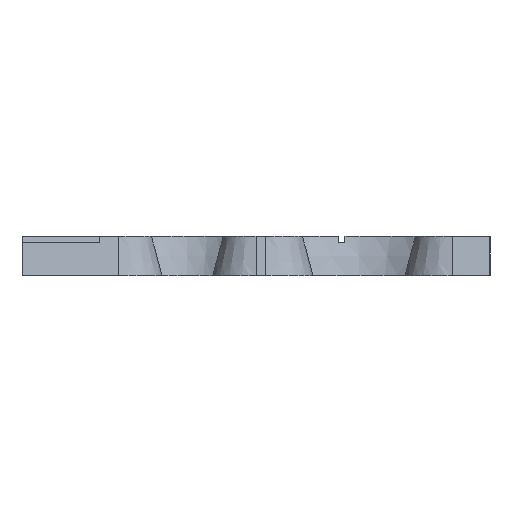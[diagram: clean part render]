
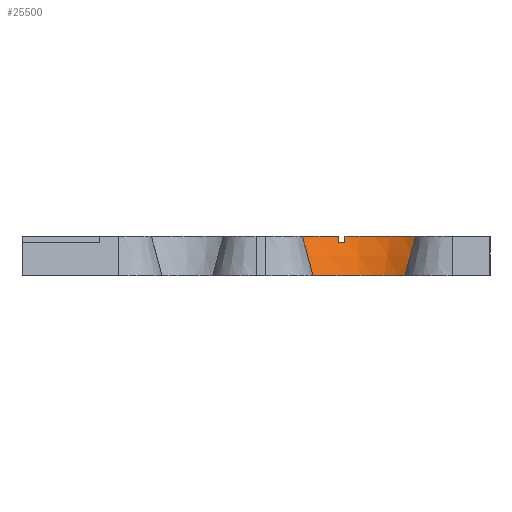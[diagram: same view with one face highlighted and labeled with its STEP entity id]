
A CAD part, left-side view. The second image highlights one B-rep face of the part: STEP entity #25500.
In plain terms, the highlighted conical face has half-angle 15 degrees and reference radius 5.2 mm.
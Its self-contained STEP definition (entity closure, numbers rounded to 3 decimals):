
#21898=AXIS2_PLACEMENT_3D('Circle Axis2P3D',#21896,#21897,$) ;
#21905=AXIS2_PLACEMENT_3D('Circle Axis2P3D',#21903,#21904,$) ;
#22594=AXIS2_PLACEMENT_3D('Circle Axis2P3D',#22592,#22593,$) ;
#22670=AXIS2_PLACEMENT_3D('Circle Axis2P3D',#22668,#22669,$) ;
#22759=AXIS2_PLACEMENT_3D('Circle Axis2P3D',#22757,#22758,$) ;
#22910=AXIS2_PLACEMENT_3D('Circle Axis2P3D',#22908,#22909,$) ;
#23804=AXIS2_PLACEMENT_3D('Circle Axis2P3D',#23802,#23803,$) ;
#24532=AXIS2_PLACEMENT_3D('Circle Axis2P3D',#24530,#24531,$) ;
#24565=AXIS2_PLACEMENT_3D('Circle Axis2P3D',#24563,#24564,$) ;
#24572=AXIS2_PLACEMENT_3D('Circle Axis2P3D',#24570,#24571,$) ;
#25478=AXIS2_PLACEMENT_3D('Cone Axis2P3D',#25475,#25476,#25477) ;
#21893=CARTESIAN_POINT('Vertex',(-1.933,-11.386,0.)) ;
#21896=CARTESIAN_POINT('Axis2P3D Location',(0.1,-6.6,0.)) ;
#21900=CARTESIAN_POINT('Vertex',(5.3,-6.6,0.)) ;
#21903=CARTESIAN_POINT('Axis2P3D Location',(0.1,-6.6,0.)) ;
#21907=CARTESIAN_POINT('Vertex',(-1.933,-1.814,0.)) ;
#22579=CARTESIAN_POINT('Vertex',(-0.2,-12.355,2.1)) ;
#22589=CARTESIAN_POINT('Vertex',(0.2,-12.362,2.1)) ;
#22592=CARTESIAN_POINT('Axis2P3D Location',(0.1,-6.6,2.1)) ;
#22608=CARTESIAN_POINT('Vertex',(-0.2,-12.462,2.5)) ;
#22612=CARTESIAN_POINT('Control Point',(-0.2,-12.462,2.5)) ;
#22613=CARTESIAN_POINT('Control Point',(-0.2,-12.441,2.42)) ;
#22614=CARTESIAN_POINT('Control Point',(-0.2,-12.419,2.34)) ;
#22615=CARTESIAN_POINT('Control Point',(-0.2,-12.398,2.26)) ;
#22616=CARTESIAN_POINT('Control Point',(-0.2,-12.376,2.18)) ;
#22617=CARTESIAN_POINT('Control Point',(-0.2,-12.355,2.1)) ;
#22630=CARTESIAN_POINT('Vertex',(0.2,-12.469,2.5)) ;
#22634=CARTESIAN_POINT('Control Point',(0.2,-12.362,2.1)) ;
#22635=CARTESIAN_POINT('Control Point',(0.2,-12.383,2.18)) ;
#22636=CARTESIAN_POINT('Control Point',(0.2,-12.405,2.26)) ;
#22637=CARTESIAN_POINT('Control Point',(0.2,-12.426,2.34)) ;
#22638=CARTESIAN_POINT('Control Point',(0.2,-12.448,2.42)) ;
#22639=CARTESIAN_POINT('Control Point',(0.2,-12.469,2.5)) ;
#22655=CARTESIAN_POINT('Vertex',(5.792,-5.7,2.1)) ;
#22665=CARTESIAN_POINT('Vertex',(5.714,-5.3,2.1)) ;
#22668=CARTESIAN_POINT('Axis2P3D Location',(0.1,-6.6,2.1)) ;
#22685=CARTESIAN_POINT('Vertex',(5.9,-5.7,2.5)) ;
#22689=CARTESIAN_POINT('Control Point',(5.9,-5.7,2.5)) ;
#22690=CARTESIAN_POINT('Control Point',(5.879,-5.7,2.42)) ;
#22691=CARTESIAN_POINT('Control Point',(5.857,-5.7,2.34)) ;
#22692=CARTESIAN_POINT('Control Point',(5.835,-5.7,2.26)) ;
#22693=CARTESIAN_POINT('Control Point',(5.814,-5.7,2.18)) ;
#22694=CARTESIAN_POINT('Control Point',(5.792,-5.7,2.1)) ;
#22707=CARTESIAN_POINT('Vertex',(5.824,-5.3,2.5)) ;
#22711=CARTESIAN_POINT('Control Point',(5.714,-5.3,2.1)) ;
#22712=CARTESIAN_POINT('Control Point',(5.736,-5.3,2.18)) ;
#22713=CARTESIAN_POINT('Control Point',(5.758,-5.3,2.26)) ;
#22714=CARTESIAN_POINT('Control Point',(5.78,-5.3,2.34)) ;
#22715=CARTESIAN_POINT('Control Point',(5.802,-5.3,2.42)) ;
#22716=CARTESIAN_POINT('Control Point',(5.824,-5.3,2.5)) ;
#22734=CARTESIAN_POINT('Vertex',(0.2,-0.838,2.1)) ;
#22754=CARTESIAN_POINT('Vertex',(-0.2,-0.845,2.1)) ;
#22757=CARTESIAN_POINT('Axis2P3D Location',(0.1,-6.6,2.1)) ;
#22775=CARTESIAN_POINT('Vertex',(0.2,-0.731,2.5)) ;
#22784=CARTESIAN_POINT('Control Point',(0.2,-0.731,2.5)) ;
#22785=CARTESIAN_POINT('Control Point',(0.2,-0.752,2.42)) ;
#22786=CARTESIAN_POINT('Control Point',(0.2,-0.774,2.34)) ;
#22787=CARTESIAN_POINT('Control Point',(0.2,-0.795,2.26)) ;
#22788=CARTESIAN_POINT('Control Point',(0.2,-0.817,2.18)) ;
#22789=CARTESIAN_POINT('Control Point',(0.2,-0.838,2.1)) ;
#22842=CARTESIAN_POINT('Vertex',(-0.2,-0.738,2.5)) ;
#22846=CARTESIAN_POINT('Control Point',(-0.2,-0.845,2.1)) ;
#22847=CARTESIAN_POINT('Control Point',(-0.2,-0.824,2.18)) ;
#22848=CARTESIAN_POINT('Control Point',(-0.2,-0.802,2.26)) ;
#22849=CARTESIAN_POINT('Control Point',(-0.2,-0.781,2.34)) ;
#22850=CARTESIAN_POINT('Control Point',(-0.2,-0.759,2.42)) ;
#22851=CARTESIAN_POINT('Control Point',(-0.2,-0.738,2.5)) ;
#22905=CARTESIAN_POINT('Vertex',(-2.195,-1.197,2.5)) ;
#22908=CARTESIAN_POINT('Axis2P3D Location',(0.1,-6.6,2.5)) ;
#23802=CARTESIAN_POINT('Axis2P3D Location',(0.1,-6.6,2.5)) ;
#24530=CARTESIAN_POINT('Axis2P3D Location',(0.1,-6.6,2.5)) ;
#24534=CARTESIAN_POINT('Vertex',(-2.195,-12.003,2.5)) ;
#24563=CARTESIAN_POINT('Axis2P3D Location',(0.1,-6.6,2.5)) ;
#24567=CARTESIAN_POINT('Vertex',(5.97,-6.6,2.5)) ;
#24570=CARTESIAN_POINT('Axis2P3D Location',(0.1,-6.6,2.5)) ;
#25412=CARTESIAN_POINT('Line Origine',(-2.064,-1.506,1.25)) ;
#25429=CARTESIAN_POINT('Line Origine',(-2.064,-11.694,1.25)) ;
#25475=CARTESIAN_POINT('Axis2P3D Location',(0.1,-6.6,0.)) ;
#21897=DIRECTION('Axis2P3D Direction',(0.,0.,1.)) ;
#21904=DIRECTION('Axis2P3D Direction',(0.,0.,1.)) ;
#22593=DIRECTION('Axis2P3D Direction',(0.,0.,1.)) ;
#22669=DIRECTION('Axis2P3D Direction',(0.,0.,1.)) ;
#22758=DIRECTION('Axis2P3D Direction',(0.,0.,1.)) ;
#22909=DIRECTION('Axis2P3D Direction',(0.,0.,1.)) ;
#23803=DIRECTION('Axis2P3D Direction',(0.,0.,1.)) ;
#24531=DIRECTION('Axis2P3D Direction',(0.,0.,1.)) ;
#24564=DIRECTION('Axis2P3D Direction',(0.,0.,1.)) ;
#24571=DIRECTION('Axis2P3D Direction',(0.,0.,1.)) ;
#25413=DIRECTION('Vector Direction',(0.101,-0.238,-0.966)) ;
#25430=DIRECTION('Vector Direction',(0.101,0.238,-0.966)) ;
#25476=DIRECTION('Axis2P3D Direction',(0.,0.,1.)) ;
#25477=DIRECTION('Axis2P3D XDirection',(1.,0.,0.)) ;
#25414=VECTOR('Line Direction',#25413,1.) ;
#25431=VECTOR('Line Direction',#25430,1.) ;
#25481=ORIENTED_EDGE('',*,*,#25416,.F.) ;
#25482=ORIENTED_EDGE('',*,*,#21909,.F.) ;
#25483=ORIENTED_EDGE('',*,*,#21902,.F.) ;
#25484=ORIENTED_EDGE('',*,*,#25433,.T.) ;
#25485=ORIENTED_EDGE('',*,*,#24536,.F.) ;
#25486=ORIENTED_EDGE('',*,*,#22618,.F.) ;
#25487=ORIENTED_EDGE('',*,*,#22596,.F.) ;
#25488=ORIENTED_EDGE('',*,*,#22640,.F.) ;
#25489=ORIENTED_EDGE('',*,*,#24574,.F.) ;
#25490=ORIENTED_EDGE('',*,*,#24569,.F.) ;
#25491=ORIENTED_EDGE('',*,*,#22695,.F.) ;
#25492=ORIENTED_EDGE('',*,*,#22672,.F.) ;
#25493=ORIENTED_EDGE('',*,*,#22717,.F.) ;
#25494=ORIENTED_EDGE('',*,*,#23806,.F.) ;
#25495=ORIENTED_EDGE('',*,*,#22790,.F.) ;
#25496=ORIENTED_EDGE('',*,*,#22761,.F.) ;
#25497=ORIENTED_EDGE('',*,*,#22852,.F.) ;
#25498=ORIENTED_EDGE('',*,*,#22912,.F.) ;
#25500=ADVANCED_FACE('PartBody',(#25499),#25479,.F.) ;
#22611=B_SPLINE_CURVE_WITH_KNOTS('',5,(#22612,#22613,#22614,#22615,#22616,#22617),.UNSPECIFIED.,.F.,.U.,(6,6),(0.,0.586),.UNSPECIFIED.) ;
#22633=B_SPLINE_CURVE_WITH_KNOTS('',5,(#22634,#22635,#22636,#22637,#22638,#22639),.UNSPECIFIED.,.F.,.U.,(6,6),(0.,0.586),.UNSPECIFIED.) ;
#22688=B_SPLINE_CURVE_WITH_KNOTS('',5,(#22689,#22690,#22691,#22692,#22693,#22694),.UNSPECIFIED.,.F.,.U.,(6,6),(0.,0.586),.UNSPECIFIED.) ;
#22710=B_SPLINE_CURVE_WITH_KNOTS('',5,(#22711,#22712,#22713,#22714,#22715,#22716),.UNSPECIFIED.,.F.,.U.,(6,6),(0.,0.587),.UNSPECIFIED.) ;
#22783=B_SPLINE_CURVE_WITH_KNOTS('',5,(#22784,#22785,#22786,#22787,#22788,#22789),.UNSPECIFIED.,.F.,.U.,(6,6),(0.,0.586),.UNSPECIFIED.) ;
#22845=B_SPLINE_CURVE_WITH_KNOTS('',5,(#22846,#22847,#22848,#22849,#22850,#22851),.UNSPECIFIED.,.F.,.U.,(6,6),(0.,0.586),.UNSPECIFIED.) ;
#21899=CIRCLE('generated circle',#21898,5.2) ;
#21906=CIRCLE('generated circle',#21905,5.2) ;
#22595=CIRCLE('generated circle',#22594,5.763) ;
#22671=CIRCLE('generated circle',#22670,5.763) ;
#22760=CIRCLE('generated circle',#22759,5.763) ;
#22911=CIRCLE('generated circle',#22910,5.87) ;
#23805=CIRCLE('generated circle',#23804,5.87) ;
#24533=CIRCLE('generated circle',#24532,5.87) ;
#24566=CIRCLE('generated circle',#24565,5.87) ;
#24573=CIRCLE('generated circle',#24572,5.87) ;
#25479=CONICAL_SURFACE('Cone',#25478,5.2,0.262) ;
#21902=EDGE_CURVE('',#21894,#21901,#21899,.T.) ;
#21909=EDGE_CURVE('',#21901,#21908,#21906,.T.) ;
#22596=EDGE_CURVE('',#22590,#22580,#22595,.F.) ;
#22618=EDGE_CURVE('',#22580,#22609,#22611,.F.) ;
#22640=EDGE_CURVE('',#22631,#22590,#22633,.F.) ;
#22672=EDGE_CURVE('',#22666,#22656,#22671,.F.) ;
#22695=EDGE_CURVE('',#22656,#22686,#22688,.F.) ;
#22717=EDGE_CURVE('',#22708,#22666,#22710,.F.) ;
#22761=EDGE_CURVE('',#22755,#22735,#22760,.F.) ;
#22790=EDGE_CURVE('',#22735,#22776,#22783,.F.) ;
#22852=EDGE_CURVE('',#22843,#22755,#22845,.F.) ;
#22912=EDGE_CURVE('',#22906,#22843,#22911,.F.) ;
#23806=EDGE_CURVE('',#22776,#22708,#23805,.F.) ;
#24536=EDGE_CURVE('',#22609,#24535,#24533,.F.) ;
#24569=EDGE_CURVE('',#22686,#24568,#24566,.F.) ;
#24574=EDGE_CURVE('',#24568,#22631,#24573,.F.) ;
#25416=EDGE_CURVE('',#21908,#22906,#25415,.F.) ;
#25433=EDGE_CURVE('',#21894,#24535,#25432,.F.) ;
#25480=EDGE_LOOP('',(#25481,#25482,#25483,#25484,#25485,#25486,#25487,#25488,#25489,#25490,#25491,#25492,#25493,#25494,#25495,#25496,#25497,#25498)) ;
#25499=FACE_OUTER_BOUND('',#25480,.T.) ;
#25415=LINE('Line',#25412,#25414) ;
#25432=LINE('Line',#25429,#25431) ;
#21894=VERTEX_POINT('',#21893) ;
#21901=VERTEX_POINT('',#21900) ;
#21908=VERTEX_POINT('',#21907) ;
#22580=VERTEX_POINT('',#22579) ;
#22590=VERTEX_POINT('',#22589) ;
#22609=VERTEX_POINT('',#22608) ;
#22631=VERTEX_POINT('',#22630) ;
#22656=VERTEX_POINT('',#22655) ;
#22666=VERTEX_POINT('',#22665) ;
#22686=VERTEX_POINT('',#22685) ;
#22708=VERTEX_POINT('',#22707) ;
#22735=VERTEX_POINT('',#22734) ;
#22755=VERTEX_POINT('',#22754) ;
#22776=VERTEX_POINT('',#22775) ;
#22843=VERTEX_POINT('',#22842) ;
#22906=VERTEX_POINT('',#22905) ;
#24535=VERTEX_POINT('',#24534) ;
#24568=VERTEX_POINT('',#24567) ;
